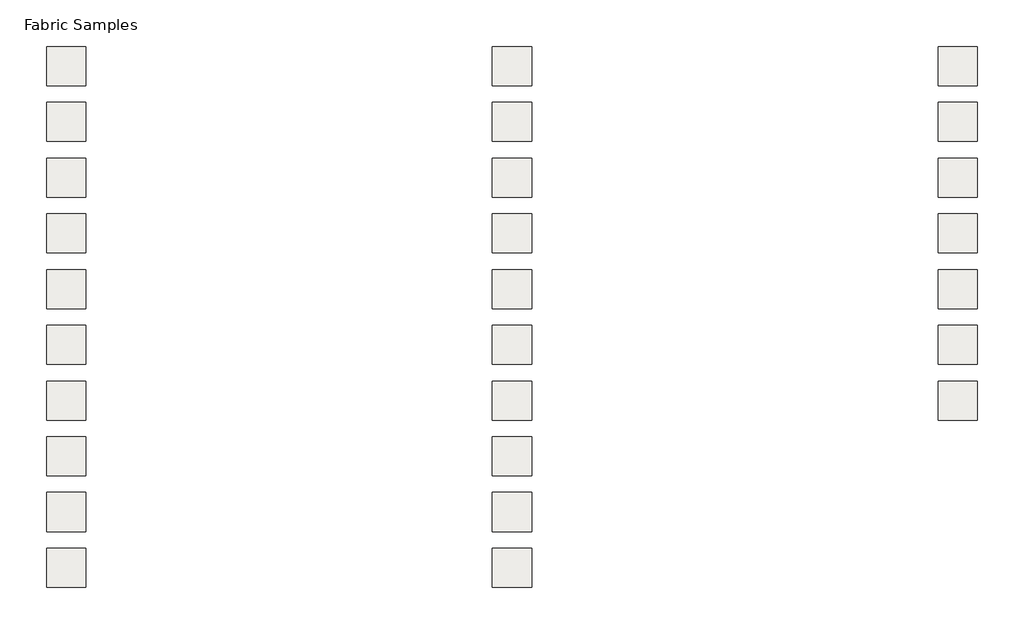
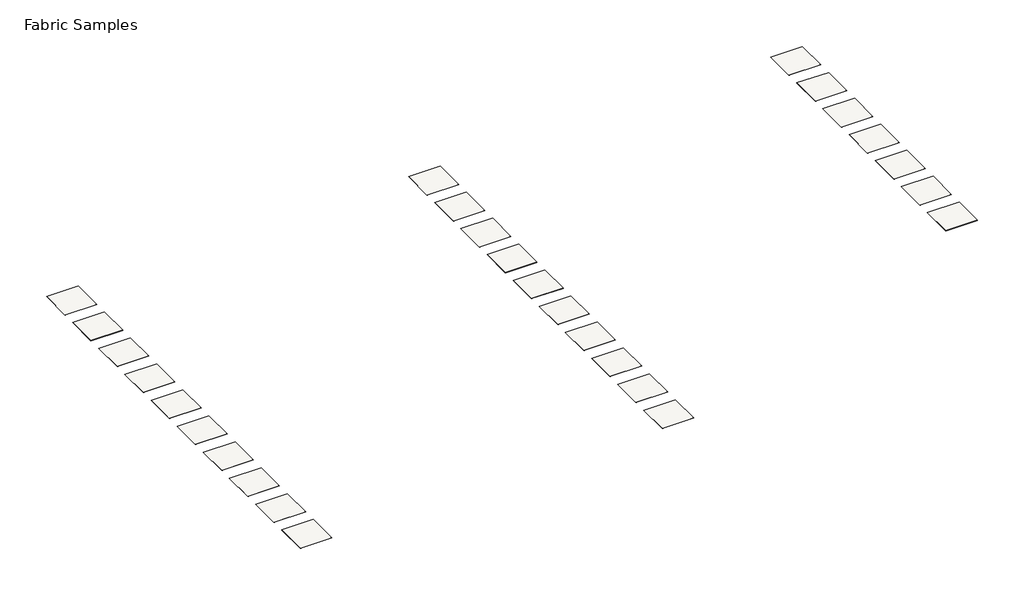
# One storey: 27 coverings.
"""IFC4 building model written with IfcOpenShell, lengths in millimetres."""

from ifc_helpers import new_model, si_unit, frame, origin, place, context, project, spatial, polyline, outline, extrude, element, save

model = new_model("IFC4")

# Units and contexts
model_context = context("Model", 3, world=origin())
ifc_project = project(units=[si_unit("LENGTHUNIT", "METRE", prefix="MILLI")], contexts=[model_context])

# Site, building, storey
site = spatial("IfcSite", under=ifc_project)
building = spatial("IfcBuilding", under=site)
storey = spatial("IfcBuildingStorey", under=building, Name="Fabric Samples", Elevation=0.0)

# Coverings
placement = place(None, origin())
element("IfcCovering", 1, ObjectType="CamiraFabrics_TxtlRllCvrngs_Aquarius_Heron_JA001", at=placement, inside=storey, context=model_context, shape_type="SweptSolid", body=[
    extrude(outline(polyline([(515.5073044, 1029.1514654), (515.5073044, -370.8485346), (-884.4926956, -370.8485346), (-884.4926956, 1029.1514654), (515.5073044, 1029.1514654)])), frame((0.0, 0.0, -2.0), z_axis=(0.0, 0.0, 1.0), x_axis=(1.0, 0.0, 0.0)), (0.0, 0.0, 1.0), 2.0),
])
element("IfcCovering", 2, ObjectType="CamiraFabrics_TxtlRllCvrngs_Aquarius_Pitch_JA002", at=placement, inside=storey, context=model_context, shape_type="SweptSolid", body=[
    extrude(outline(polyline([(515.5073044, -970.8485346), (515.5073044, -2370.8485346), (-884.4926956, -2370.8485346), (-884.4926956, -970.8485346), (515.5073044, -970.8485346)])), frame((0.0, 0.0, -2.0), z_axis=(0.0, 0.0, 1.0), x_axis=(1.0, 0.0, 0.0)), (0.0, 0.0, 1.0), 2.0),
])
element("IfcCovering", 3, ObjectType="CamiraFabrics_TxtlRllCvrngs_Aquarius_Mariner_JA016", at=placement, inside=storey, context=model_context, shape_type="SweptSolid", body=[
    extrude(outline(polyline([(515.5073044, -2970.8485346), (515.5073044, -4370.8485346), (-884.4926956, -4370.8485346), (-884.4926956, -2970.8485346), (515.5073044, -2970.8485346)])), frame((0.0, 0.0, -2.0), z_axis=(0.0, 0.0, 1.0), x_axis=(1.0, 0.0, 0.0)), (0.0, 0.0, 1.0), 2.0),
])
element("IfcCovering", 4, ObjectType="CamiraFabrics_TxtlRllCvrngs_Aquarius_Rhino_JA022", at=placement, inside=storey, context=model_context, shape_type="SweptSolid", body=[
    extrude(outline(polyline([(515.5073044, -4970.8485346), (515.5073044, -6370.8485346), (-884.4926956, -6370.8485346), (-884.4926956, -4970.8485346), (515.5073044, -4970.8485346)])), frame((0.0, 0.0, -2.0), z_axis=(0.0, 0.0, 1.0), x_axis=(1.0, 0.0, 0.0)), (0.0, 0.0, 1.0), 2.0),
])
element("IfcCovering", 5, ObjectType="CamiraFabrics_TxtlRllCvrngs_Aquarius_Porcelain_JA024", at=placement, inside=storey, context=model_context, shape_type="SweptSolid", body=[
    extrude(outline(polyline([(515.5073044, -6970.8485346), (515.5073044, -8370.8485346), (-884.4926956, -8370.8485346), (-884.4926956, -6970.8485346), (515.5073044, -6970.8485346)])), frame((0.0, 0.0, -2.0), z_axis=(0.0, 0.0, 1.0), x_axis=(1.0, 0.0, 0.0)), (0.0, 0.0, 1.0), 2.0),
])
element("IfcCovering", 6, ObjectType="CamiraFabrics_TxtlRllCvrngs_Aquarius_Jezebel_JA027", at=placement, inside=storey, context=model_context, shape_type="SweptSolid", body=[
    extrude(outline(polyline([(515.5073044, -8970.8485346), (515.5073044, -10370.8485346), (-884.4926956, -10370.8485346), (-884.4926956, -8970.8485346), (515.5073044, -8970.8485346)])), frame((0.0, 0.0, -2.0), z_axis=(0.0, 0.0, 1.0), x_axis=(1.0, 0.0, 0.0)), (0.0, 0.0, 1.0), 2.0),
])
element("IfcCovering", 7, ObjectType="CamiraFabrics_TxtlRllCvrngs_Aquarius_Paderborn_JA047", at=placement, inside=storey, context=model_context, shape_type="SweptSolid", body=[
    extrude(outline(polyline([(515.5073044, -10970.8485346), (515.5073044, -12370.8485346), (-884.4926956, -12370.8485346), (-884.4926956, -10970.8485346), (515.5073044, -10970.8485346)])), frame((0.0, 0.0, -2.0), z_axis=(0.0, 0.0, 1.0), x_axis=(1.0, 0.0, 0.0)), (0.0, 0.0, 1.0), 2.0),
])
element("IfcCovering", 8, ObjectType="CamiraFabrics_TxtlRllCvrngs_Aquarius_Biscay_JA059", at=placement, inside=storey, context=model_context, shape_type="SweptSolid", body=[
    extrude(outline(polyline([(515.5073044, -12970.8485346), (515.5073044, -14370.8485346), (-884.4926956, -14370.8485346), (-884.4926956, -12970.8485346), (515.5073044, -12970.8485346)])), frame((0.0, 0.0, -2.0), z_axis=(0.0, 0.0, 1.0), x_axis=(1.0, 0.0, 0.0)), (0.0, 0.0, 1.0), 2.0),
])
element("IfcCovering", 9, ObjectType="CamiraFabrics_TxtlRllCvrngs_Aquarius_Vermillion_JA062", at=placement, inside=storey, context=model_context, shape_type="SweptSolid", body=[
    extrude(outline(polyline([(515.5073044, -14970.8485346), (515.5073044, -16370.8485346), (-884.4926956, -16370.8485346), (-884.4926956, -14970.8485346), (515.5073044, -14970.8485346)])), frame((0.0, 0.0, -2.0), z_axis=(0.0, 0.0, 1.0), x_axis=(1.0, 0.0, 0.0)), (0.0, 0.0, 1.0), 2.0),
])
element("IfcCovering", 10, ObjectType="CamiraFabrics_TxtlRllCvrngs_Aquarius_Amber_JA068", at=placement, inside=storey, context=model_context, shape_type="SweptSolid", body=[
    extrude(outline(polyline([(515.5073044, -16970.8485346), (515.5073044, -18370.8485346), (-884.4926956, -18370.8485346), (-884.4926956, -16970.8485346), (515.5073044, -16970.8485346)])), frame((0.0, 0.0, -2.0), z_axis=(0.0, 0.0, 1.0), x_axis=(1.0, 0.0, 0.0)), (0.0, 0.0, 1.0), 2.0),
])
element("IfcCovering", 11, ObjectType="CamiraFabrics_TxtlRllCvrngs_Aquarius_Swart_JA069", at=placement, inside=storey, context=model_context, shape_type="SweptSolid", body=[
    extrude(outline(polyline([(16515.5073044, 1029.1514654), (16515.5073044, -370.8485346), (15115.5073044, -370.8485346), (15115.5073044, 1029.1514654), (16515.5073044, 1029.1514654)])), frame((0.0, 0.0, -2.0), z_axis=(0.0, 0.0, 1.0), x_axis=(1.0, 0.0, 0.0)), (0.0, 0.0, 1.0), 2.0),
])
element("IfcCovering", 12, ObjectType="CamiraFabrics_TxtlRllCvrngs_Aquarius_Poison_JA084", at=placement, inside=storey, context=model_context, shape_type="SweptSolid", body=[
    extrude(outline(polyline([(16515.5073044, -970.8485346), (16515.5073044, -2370.8485346), (15115.5073044, -2370.8485346), (15115.5073044, -970.8485346), (16515.5073044, -970.8485346)])), frame((0.0, 0.0, -2.0), z_axis=(0.0, 0.0, 1.0), x_axis=(1.0, 0.0, 0.0)), (0.0, 0.0, 1.0), 2.0),
])
element("IfcCovering", 13, ObjectType="CamiraFabrics_TxtlRllCvrngs_Aquarius_Mushroom_JA125", at=placement, inside=storey, context=model_context, shape_type="SweptSolid", body=[
    extrude(outline(polyline([(16515.5073044, -2970.8485346), (16515.5073044, -4370.8485346), (15115.5073044, -4370.8485346), (15115.5073044, -2970.8485346), (16515.5073044, -2970.8485346)])), frame((0.0, 0.0, -2.0), z_axis=(0.0, 0.0, 1.0), x_axis=(1.0, 0.0, 0.0)), (0.0, 0.0, 1.0), 2.0),
])
element("IfcCovering", 14, ObjectType="CamiraFabrics_TxtlRllCvrngs_Aquarius_Purple_JA157", at=placement, inside=storey, context=model_context, shape_type="SweptSolid", body=[
    extrude(outline(polyline([(16515.5073044, -4970.8485346), (16515.5073044, -6370.8485346), (15115.5073044, -6370.8485346), (15115.5073044, -4970.8485346), (16515.5073044, -4970.8485346)])), frame((0.0, 0.0, -2.0), z_axis=(0.0, 0.0, 1.0), x_axis=(1.0, 0.0, 0.0)), (0.0, 0.0, 1.0), 2.0),
])
element("IfcCovering", 15, ObjectType="CamiraFabrics_TxtlRllCvrngs_Aquarius_Smurf_JA159", at=placement, inside=storey, context=model_context, shape_type="SweptSolid", body=[
    extrude(outline(polyline([(16515.5073044, -6970.8485346), (16515.5073044, -8370.8485346), (15115.5073044, -8370.8485346), (15115.5073044, -6970.8485346), (16515.5073044, -6970.8485346)])), frame((0.0, 0.0, -2.0), z_axis=(0.0, 0.0, 1.0), x_axis=(1.0, 0.0, 0.0)), (0.0, 0.0, 1.0), 2.0),
])
element("IfcCovering", 16, ObjectType="CamiraFabrics_TxtlRllCvrngs_Aquarius_Tambourine_JA183", at=placement, inside=storey, context=model_context, shape_type="SweptSolid", body=[
    extrude(outline(polyline([(16515.5073044, -8970.8485346), (16515.5073044, -10370.8485346), (15115.5073044, -10370.8485346), (15115.5073044, -8970.8485346), (16515.5073044, -8970.8485346)])), frame((0.0, 0.0, -2.0), z_axis=(0.0, 0.0, 1.0), x_axis=(1.0, 0.0, 0.0)), (0.0, 0.0, 1.0), 2.0),
])
element("IfcCovering", 17, ObjectType="CamiraFabrics_TxtlRllCvrngs_Aquarius_Manta_JA194", at=placement, inside=storey, context=model_context, shape_type="SweptSolid", body=[
    extrude(outline(polyline([(16515.5073044, -10970.8485346), (16515.5073044, -12370.8485346), (15115.5073044, -12370.8485346), (15115.5073044, -10970.8485346), (16515.5073044, -10970.8485346)])), frame((0.0, 0.0, -2.0), z_axis=(0.0, 0.0, 1.0), x_axis=(1.0, 0.0, 0.0)), (0.0, 0.0, 1.0), 2.0),
])
element("IfcCovering", 18, ObjectType="CamiraFabrics_TxtlRllCvrngs_Aquarius_Courgette_JA201", at=placement, inside=storey, context=model_context, shape_type="SweptSolid", body=[
    extrude(outline(polyline([(16515.5073044, -12970.8485346), (16515.5073044, -14370.8485346), (15115.5073044, -14370.8485346), (15115.5073044, -12970.8485346), (16515.5073044, -12970.8485346)])), frame((0.0, 0.0, -2.0), z_axis=(0.0, 0.0, 1.0), x_axis=(1.0, 0.0, 0.0)), (0.0, 0.0, 1.0), 2.0),
])
element("IfcCovering", 19, ObjectType="CamiraFabrics_TxtlRllCvrngs_Aquarius_Ceres_JA409", at=placement, inside=storey, context=model_context, shape_type="SweptSolid", body=[
    extrude(outline(polyline([(16515.5073044, -14970.8485346), (16515.5073044, -16370.8485346), (15115.5073044, -16370.8485346), (15115.5073044, -14970.8485346), (16515.5073044, -14970.8485346)])), frame((0.0, 0.0, -2.0), z_axis=(0.0, 0.0, 1.0), x_axis=(1.0, 0.0, 0.0)), (0.0, 0.0, 1.0), 2.0),
])
element("IfcCovering", 20, ObjectType="CamiraFabrics_TxtlRllCvrngs_Aquarius_Aristotle_JA416", at=placement, inside=storey, context=model_context, shape_type="SweptSolid", body=[
    extrude(outline(polyline([(16515.5073044, -16970.8485346), (16515.5073044, -18370.8485346), (15115.5073044, -18370.8485346), (15115.5073044, -16970.8485346), (16515.5073044, -16970.8485346)])), frame((0.0, 0.0, -2.0), z_axis=(0.0, 0.0, 1.0), x_axis=(1.0, 0.0, 0.0)), (0.0, 0.0, 1.0), 2.0),
])
element("IfcCovering", 21, ObjectType="CamiraFabrics_TxtlRllCvrngs_Aquarius_Cherry_JA419", at=placement, inside=storey, context=model_context, shape_type="SweptSolid", body=[
    extrude(outline(polyline([(32515.5073044, 1029.1514654), (32515.5073044, -370.8485346), (31115.5073044, -370.8485346), (31115.5073044, 1029.1514654), (32515.5073044, 1029.1514654)])), frame((0.0, 0.0, -2.0), z_axis=(0.0, 0.0, 1.0), x_axis=(1.0, 0.0, 0.0)), (0.0, 0.0, 1.0), 2.0),
])
element("IfcCovering", 22, ObjectType="CamiraFabrics_TxtlRllCvrngs_Aquarius_Zippy_JA426", at=placement, inside=storey, context=model_context, shape_type="SweptSolid", body=[
    extrude(outline(polyline([(32515.5073044, -970.8485346), (32515.5073044, -2370.8485346), (31115.5073044, -2370.8485346), (31115.5073044, -970.8485346), (32515.5073044, -970.8485346)])), frame((0.0, 0.0, -2.0), z_axis=(0.0, 0.0, 1.0), x_axis=(1.0, 0.0, 0.0)), (0.0, 0.0, 1.0), 2.0),
])
element("IfcCovering", 23, ObjectType="CamiraFabrics_TxtlRllCvrngs_Aquarius_Circus_JA428", at=placement, inside=storey, context=model_context, shape_type="SweptSolid", body=[
    extrude(outline(polyline([(32515.5073044, -2970.8485346), (32515.5073044, -4370.8485346), (31115.5073044, -4370.8485346), (31115.5073044, -2970.8485346), (32515.5073044, -2970.8485346)])), frame((0.0, 0.0, -2.0), z_axis=(0.0, 0.0, 1.0), x_axis=(1.0, 0.0, 0.0)), (0.0, 0.0, 1.0), 2.0),
])
element("IfcCovering", 24, ObjectType="CamiraFabrics_TxtlRllCvrngs_Aquarius_Vico_JA435", at=placement, inside=storey, context=model_context, shape_type="SweptSolid", body=[
    extrude(outline(polyline([(32515.5073044, -4970.8485346), (32515.5073044, -6370.8485346), (31115.5073044, -6370.8485346), (31115.5073044, -4970.8485346), (32515.5073044, -4970.8485346)])), frame((0.0, 0.0, -2.0), z_axis=(0.0, 0.0, 1.0), x_axis=(1.0, 0.0, 0.0)), (0.0, 0.0, 1.0), 2.0),
])
element("IfcCovering", 25, ObjectType="CamiraFabrics_TxtlRllCvrngs_Aquarius_Tombola_JA442", at=placement, inside=storey, context=model_context, shape_type="SweptSolid", body=[
    extrude(outline(polyline([(32515.5073044, -6970.8485346), (32515.5073044, -8370.8485346), (31115.5073044, -8370.8485346), (31115.5073044, -6970.8485346), (32515.5073044, -6970.8485346)])), frame((0.0, 0.0, -2.0), z_axis=(0.0, 0.0, 1.0), x_axis=(1.0, 0.0, 0.0)), (0.0, 0.0, 1.0), 2.0),
])
element("IfcCovering", 26, ObjectType="CamiraFabrics_TxtlRllCvrngs_Aquarius_Chomsky_JA443", at=placement, inside=storey, context=model_context, shape_type="SweptSolid", body=[
    extrude(outline(polyline([(32515.5073044, -8970.8485346), (32515.5073044, -10370.8485346), (31115.5073044, -10370.8485346), (31115.5073044, -8970.8485346), (32515.5073044, -8970.8485346)])), frame((0.0, 0.0, -2.0), z_axis=(0.0, 0.0, 1.0), x_axis=(1.0, 0.0, 0.0)), (0.0, 0.0, 1.0), 2.0),
])
element("IfcCovering", 27, ObjectType="CamiraFabrics_TxtlRllCvrngs_Aquarius_Spinoza_JA448", at=placement, inside=storey, context=model_context, shape_type="SweptSolid", body=[
    extrude(outline(polyline([(32515.5073044, -10970.8485346), (32515.5073044, -12370.8485346), (31115.5073044, -12370.8485346), (31115.5073044, -10970.8485346), (32515.5073044, -10970.8485346)])), frame((0.0, 0.0, -2.0), z_axis=(0.0, 0.0, 1.0), x_axis=(1.0, 0.0, 0.0)), (0.0, 0.0, 1.0), 2.0),
])

save(model, "model.ifc")
